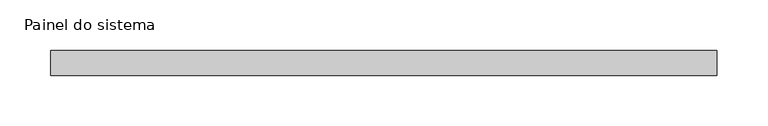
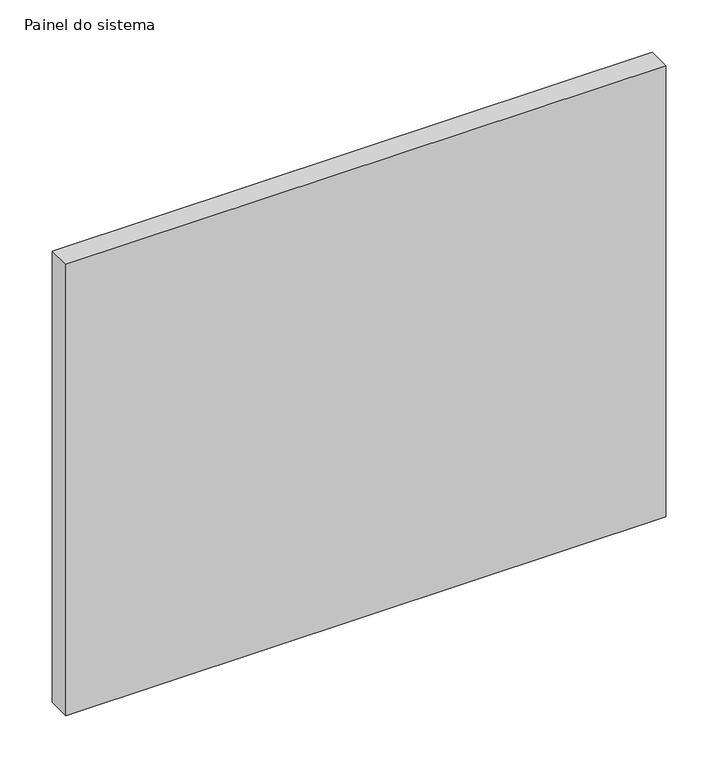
"""IFC4 building model written with IfcOpenShell, lengths in millimetres: plate geometry, Painel do sistema : Envidraçado."""

from ifc_helpers import new_model, si_unit, origin, origin_with_axes, place, context, project, spatial, polyline, outline, extrude, source, transform, mapped, element, save


def painel_do_sistema_94cd8bb4(model_context):
    return source(origin(), model_context, "Body", "SweptSolid", [
        extrude(outline(polyline([(330.025, 24.5), (-330.025, 24.5), (-330.025, 49.5), (330.025, 49.5), (330.025, 24.5)])), origin_with_axes(), (0.0, 0.0, 1.0), 525.0),
    ])


if __name__ == "__main__":
    model = new_model("IFC4")
    model_context = context("Model", 3, world=origin())
    ifc_project = project(units=[si_unit("LENGTHUNIT", "METRE", prefix="MILLI")], contexts=[model_context])
    site = spatial("IfcSite", under=ifc_project)
    building = spatial("IfcBuilding", under=site)
    placement = place(None, origin())
    painel_do_sistema_shape = painel_do_sistema_94cd8bb4(model_context)
    element("IfcPlate", 1, ObjectType="Painel do sistema : Envidraçado", at=placement, inside=building, context=model_context, shape_type="MappedRepresentation", body=[
        mapped(painel_do_sistema_shape, transform((0.0, 0.0, 0.0), x_axis=(1.0, 0.0, 0.0), y_axis=(0.0, 1.0, 0.0), z_axis=(0.0, 0.0, 1.0))),
    ])
    save(model, "model.ifc")
